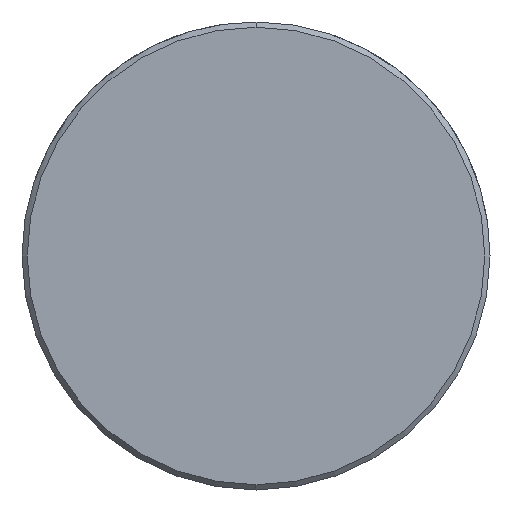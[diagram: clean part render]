
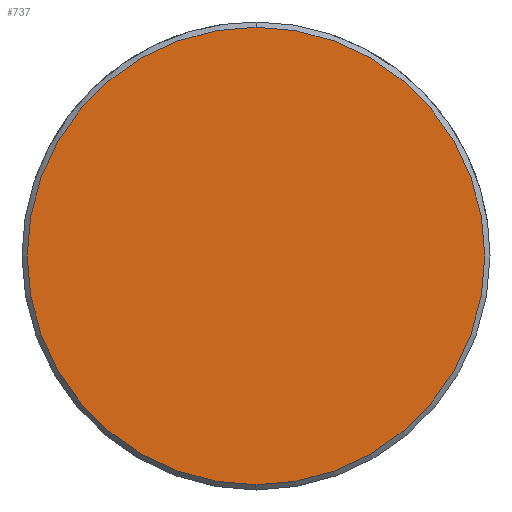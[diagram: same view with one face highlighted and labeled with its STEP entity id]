
A CAD part, left-side view. The second image highlights one B-rep face of the part: STEP entity #737.
In plain terms, the highlighted planar face has unit normal (-1, 0, 0).
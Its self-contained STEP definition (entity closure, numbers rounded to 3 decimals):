
#669=CARTESIAN_POINT('Vertex',(0.,0.,-13.2)) ;
#672=CARTESIAN_POINT('Axis2P3D Location',(0.,0.,0.)) ;
#676=CARTESIAN_POINT('Vertex',(0.,13.2,0.)) ;
#679=CARTESIAN_POINT('Axis2P3D Location',(0.,0.,0.)) ;
#683=CARTESIAN_POINT('Vertex',(0.,0.,13.2)) ;
#705=CARTESIAN_POINT('Axis2P3D Location',(0.,0.,0.)) ;
#709=CARTESIAN_POINT('Vertex',(0.,-13.2,0.)) ;
#712=CARTESIAN_POINT('Axis2P3D Location',(0.,0.,0.)) ;
#726=CARTESIAN_POINT('Axis2P3D Location',(0.,0.,0.)) ;
#673=DIRECTION('Axis2P3D Direction',(1.,0.,-0.)) ;
#680=DIRECTION('Axis2P3D Direction',(1.,0.,-0.)) ;
#706=DIRECTION('Axis2P3D Direction',(1.,0.,-0.)) ;
#713=DIRECTION('Axis2P3D Direction',(1.,0.,-0.)) ;
#727=DIRECTION('Axis2P3D Direction',(1.,0.,-0.)) ;
#728=DIRECTION('Axis2P3D XDirection',(-0.,0.,-1.)) ;
#674=AXIS2_PLACEMENT_3D('Circle Axis2P3D',#672,#673,$) ;
#681=AXIS2_PLACEMENT_3D('Circle Axis2P3D',#679,#680,$) ;
#707=AXIS2_PLACEMENT_3D('Circle Axis2P3D',#705,#706,$) ;
#714=AXIS2_PLACEMENT_3D('Circle Axis2P3D',#712,#713,$) ;
#729=AXIS2_PLACEMENT_3D('Plane Axis2P3D',#726,#727,#728) ;
#732=ORIENTED_EDGE('',*,*,#678,.F.) ;
#733=ORIENTED_EDGE('',*,*,#716,.F.) ;
#734=ORIENTED_EDGE('',*,*,#711,.F.) ;
#735=ORIENTED_EDGE('',*,*,#685,.F.) ;
#737=ADVANCED_FACE('549-24X100',(#736),#730,.F.) ;
#675=CIRCLE('generated circle',#674,13.2) ;
#682=CIRCLE('generated circle',#681,13.2) ;
#708=CIRCLE('generated circle',#707,13.2) ;
#715=CIRCLE('generated circle',#714,13.2) ;
#678=EDGE_CURVE('',#670,#677,#675,.T.) ;
#685=EDGE_CURVE('',#677,#684,#682,.T.) ;
#711=EDGE_CURVE('',#684,#710,#708,.T.) ;
#716=EDGE_CURVE('',#710,#670,#715,.T.) ;
#731=EDGE_LOOP('',(#732,#733,#734,#735)) ;
#736=FACE_OUTER_BOUND('',#731,.T.) ;
#730=PLANE('Plane',#729) ;
#670=VERTEX_POINT('',#669) ;
#677=VERTEX_POINT('',#676) ;
#684=VERTEX_POINT('',#683) ;
#710=VERTEX_POINT('',#709) ;
